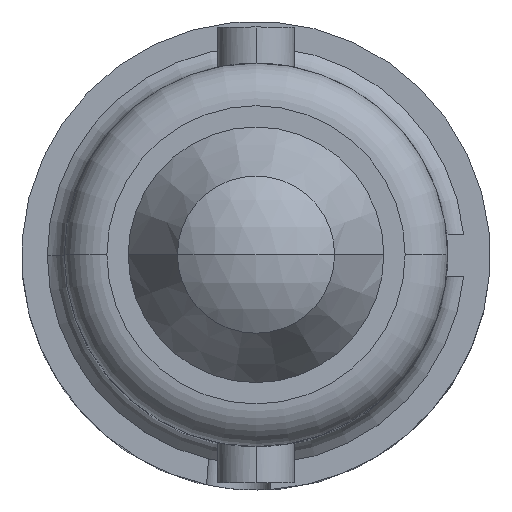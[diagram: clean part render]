
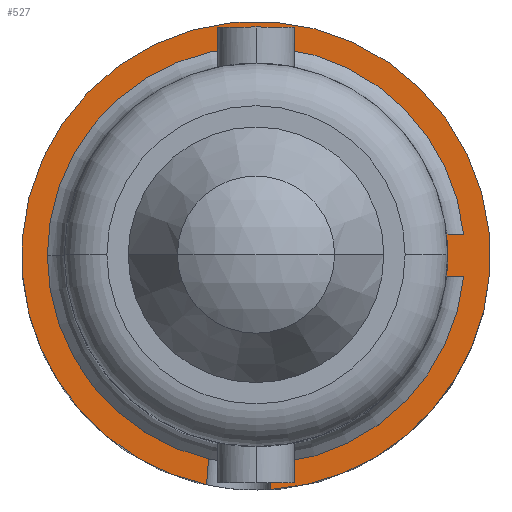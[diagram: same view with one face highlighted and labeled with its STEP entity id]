
A CAD part, top view. The second image highlights one B-rep face of the part: STEP entity #527.
In plain terms, the highlighted planar face has unit normal (0, 0, 1) as drawn and (0, -1, 0) by its records, which use the part's own axes.
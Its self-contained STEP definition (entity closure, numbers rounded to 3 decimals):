
#162 = CARTESIAN_POINT ( 'NONE',  ( 0., 5., 5.5 ) ) ;
#171 = DIRECTION ( 'NONE',  ( 0., -1., 0. ) ) ;
#274 = CARTESIAN_POINT ( 'NONE',  ( 0., 5., 0. ) ) ;
#346 = VECTOR ( 'NONE', #1068, 1000. ) ;
#387 = ORIENTED_EDGE ( 'NONE', *, *, #561, .F. ) ;
#407 = EDGE_CURVE ( 'NONE', #2729, #2235, #609, .T. ) ;
#482 = DIRECTION ( 'NONE',  ( 0., -1., 0. ) ) ;
#514 = CIRCLE ( 'NONE', #1060, 4.35 ) ;
#524 = VERTEX_POINT ( 'NONE', #732 ) ;
#527 = ADVANCED_FACE ( 'NONE', ( #2046 ), #2332, .T. ) ;
#535 = AXIS2_PLACEMENT_3D ( 'NONE', #1566, #1557, #2094 ) ;
#561 = EDGE_CURVE ( 'NONE', #524, #808, #1963, .T. ) ;
#567 = DIRECTION ( 'NONE',  ( 1., 0., 0. ) ) ;
#609 = CIRCLE ( 'NONE', #1710, 4.35 ) ;
#615 = EDGE_CURVE ( 'NONE', #2286, #2729, #1758, .T. ) ;
#726 = ORIENTED_EDGE ( 'NONE', *, *, #2362, .T. ) ;
#732 = CARTESIAN_POINT ( 'NONE',  ( 4.285, 5., -0.75 ) ) ;
#786 = CARTESIAN_POINT ( 'NONE',  ( 0., 5., 4.35 ) ) ;
#795 = DIRECTION ( 'NONE',  ( 0., -1., 0. ) ) ;
#808 = VERTEX_POINT ( 'NONE', #1873 ) ;
#901 = CARTESIAN_POINT ( 'NONE',  ( 0., 5., -4.35 ) ) ;
#933 = VERTEX_POINT ( 'NONE', #901 ) ;
#980 = DIRECTION ( 'NONE',  ( 0., 0., -1. ) ) ;
#995 = ORIENTED_EDGE ( 'NONE', *, *, #615, .F. ) ;
#1024 = CIRCLE ( 'NONE', #1976, 5.5 ) ;
#1049 = DIRECTION ( 'NONE',  ( 0., 0., -1. ) ) ;
#1060 = AXIS2_PLACEMENT_3D ( 'NONE', #1744, #482, #2988 ) ;
#1061 = ORIENTED_EDGE ( 'NONE', *, *, #407, .F. ) ;
#1068 = DIRECTION ( 'NONE',  ( -1., 0., 0. ) ) ;
#1070 = CARTESIAN_POINT ( 'NONE',  ( 0., 5., -5.5 ) ) ;
#1182 = EDGE_CURVE ( 'NONE', #2235, #933, #514, .T. ) ;
#1216 = CIRCLE ( 'NONE', #1783, 5.5 ) ;
#1247 = EDGE_CURVE ( 'NONE', #2286, #1631, #1024, .T. ) ;
#1334 = CIRCLE ( 'NONE', #2937, 4.35 ) ;
#1350 = CARTESIAN_POINT ( 'NONE',  ( 5.449, 5., 0.75 ) ) ;
#1473 = CARTESIAN_POINT ( 'NONE',  ( 0., 5., 0. ) ) ;
#1557 = DIRECTION ( 'NONE',  ( 0., -1., 0. ) ) ;
#1566 = CARTESIAN_POINT ( 'NONE',  ( 5.5, 5., 0. ) ) ;
#1570 = ORIENTED_EDGE ( 'NONE', *, *, #2207, .T. ) ;
#1631 = VERTEX_POINT ( 'NONE', #162 ) ;
#1682 = ORIENTED_EDGE ( 'NONE', *, *, #1182, .F. ) ;
#1710 = AXIS2_PLACEMENT_3D ( 'NONE', #1473, #1989, #2241 ) ;
#1723 = CIRCLE ( 'NONE', #2611, 5.5 ) ;
#1744 = CARTESIAN_POINT ( 'NONE',  ( 0., 5., 0. ) ) ;
#1758 = LINE ( 'NONE', #1837, #346 ) ;
#1783 = AXIS2_PLACEMENT_3D ( 'NONE', #3116, #171, #2621 ) ;
#1837 = CARTESIAN_POINT ( 'NONE',  ( 5.5, 5., 0.75 ) ) ;
#1873 = CARTESIAN_POINT ( 'NONE',  ( 5.449, 5., -0.75 ) ) ;
#1924 = ORIENTED_EDGE ( 'NONE', *, *, #1247, .T. ) ;
#1953 = EDGE_CURVE ( 'NONE', #933, #524, #1334, .T. ) ;
#1963 = LINE ( 'NONE', #2317, #2995 ) ;
#1976 = AXIS2_PLACEMENT_3D ( 'NONE', #2311, #3045, #1049 ) ;
#1989 = DIRECTION ( 'NONE',  ( 0., -1., 0. ) ) ;
#2016 = EDGE_LOOP ( 'NONE', ( #387, #2881, #1682, #1061, #995, #1924, #726, #1570 ) ) ;
#2035 = DIRECTION ( 'NONE',  ( 0., 0., -1. ) ) ;
#2046 = FACE_OUTER_BOUND ( 'NONE', #2016, .T. ) ;
#2094 = DIRECTION ( 'NONE',  ( 0., 0., -1. ) ) ;
#2207 = EDGE_CURVE ( 'NONE', #2896, #808, #1723, .T. ) ;
#2235 = VERTEX_POINT ( 'NONE', #786 ) ;
#2238 = CARTESIAN_POINT ( 'NONE',  ( 0., 5., 0. ) ) ;
#2241 = DIRECTION ( 'NONE',  ( 0., 0., -1. ) ) ;
#2286 = VERTEX_POINT ( 'NONE', #1350 ) ;
#2311 = CARTESIAN_POINT ( 'NONE',  ( 0., 5., 0. ) ) ;
#2317 = CARTESIAN_POINT ( 'NONE',  ( 5.5, 5., -0.75 ) ) ;
#2332 = PLANE ( 'NONE',  #535 ) ;
#2362 = EDGE_CURVE ( 'NONE', #1631, #2896, #1216, .T. ) ;
#2611 = AXIS2_PLACEMENT_3D ( 'NONE', #274, #795, #2035 ) ;
#2621 = DIRECTION ( 'NONE',  ( 0., 0., -1. ) ) ;
#2729 = VERTEX_POINT ( 'NONE', #2761 ) ;
#2761 = CARTESIAN_POINT ( 'NONE',  ( 4.285, 5., 0.75 ) ) ;
#2881 = ORIENTED_EDGE ( 'NONE', *, *, #1953, .F. ) ;
#2896 = VERTEX_POINT ( 'NONE', #1070 ) ;
#2937 = AXIS2_PLACEMENT_3D ( 'NONE', #2238, #2976, #980 ) ;
#2976 = DIRECTION ( 'NONE',  ( 0., -1., 0. ) ) ;
#2988 = DIRECTION ( 'NONE',  ( 0., 0., -1. ) ) ;
#2995 = VECTOR ( 'NONE', #567, 1000. ) ;
#3045 = DIRECTION ( 'NONE',  ( 0., -1., 0. ) ) ;
#3116 = CARTESIAN_POINT ( 'NONE',  ( 0., 5., 0. ) ) ;
